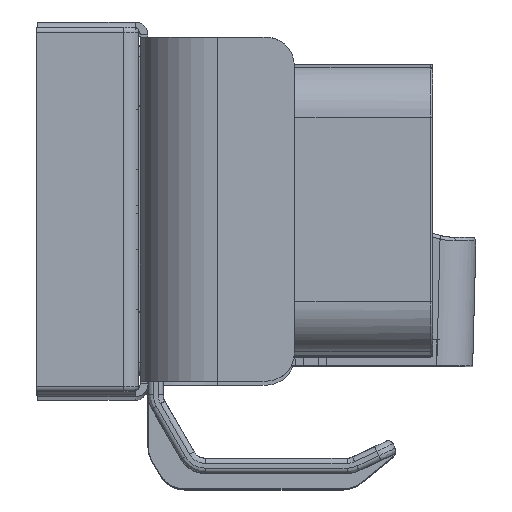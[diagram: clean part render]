
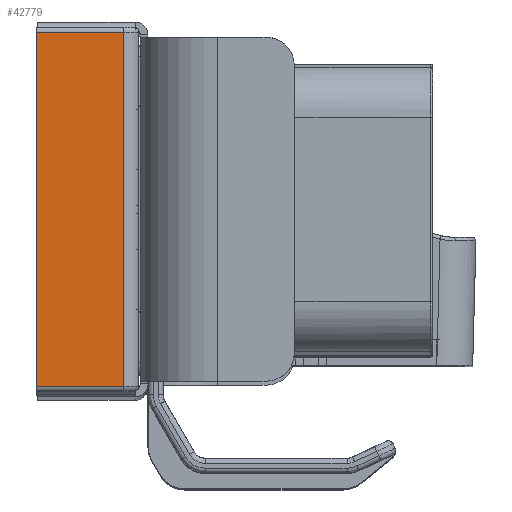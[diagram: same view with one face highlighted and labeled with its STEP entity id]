
A CAD part, top view. The second image highlights one B-rep face of the part: STEP entity #42779.
In plain terms, the highlighted planar face has unit normal (0, 0, 1).
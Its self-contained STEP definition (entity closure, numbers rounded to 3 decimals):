
#1903=DIRECTION('',(0.,-1.,0.));
#1904=VECTOR('',#1903,69.);
#1905=CARTESIAN_POINT('',(-20.3,34.5,213.5));
#1906=LINE('',#1905,#1904);
#5052=DIRECTION('',(1.,0.,0.));
#5053=VECTOR('',#5052,17.);
#5054=CARTESIAN_POINT('',(-20.3,34.5,213.5));
#5055=LINE('',#5054,#5053);
#5056=DIRECTION('',(0.,-1.,0.));
#5057=VECTOR('',#5056,69.);
#5058=CARTESIAN_POINT('',(-3.3,34.5,213.5));
#5059=LINE('',#5058,#5057);
#5060=DIRECTION('',(-1.,0.,0.));
#5061=VECTOR('',#5060,17.);
#5062=CARTESIAN_POINT('',(-3.3,-34.5,213.5));
#5063=LINE('',#5062,#5061);
#30029=CARTESIAN_POINT('',(-3.3,34.5,213.5));
#30030=VERTEX_POINT('',#30029);
#30033=CARTESIAN_POINT('',(-20.3,34.5,213.5));
#30035=VERTEX_POINT('',#30033);
#30038=CARTESIAN_POINT('',(-20.3,-34.5,213.5));
#30040=VERTEX_POINT('',#30038);
#30041=CARTESIAN_POINT('',(-3.3,-34.5,213.5));
#30042=VERTEX_POINT('',#30041);
#42766=CARTESIAN_POINT('',(-3.3,35.5,213.5));
#42767=DIRECTION('',(0.,0.,1.));
#42768=DIRECTION('',(-1.,0.,0.));
#42769=AXIS2_PLACEMENT_3D('',#42766,#42767,#42768);
#42770=PLANE('',#42769);
#42772=ORIENTED_EDGE('',*,*,#42771,.T.);
#42774=ORIENTED_EDGE('',*,*,#42773,.T.);
#42775=ORIENTED_EDGE('',*,*,#42751,.T.);
#42776=ORIENTED_EDGE('',*,*,#36648,.F.);
#42777=EDGE_LOOP('',(#42772,#42774,#42775,#42776));
#42778=FACE_OUTER_BOUND('',#42777,.F.);
#36648=EDGE_CURVE('',#30035,#30040,#1906,.T.);
#42751=EDGE_CURVE('',#30042,#30040,#5063,.T.);
#42771=EDGE_CURVE('',#30035,#30030,#5055,.T.);
#42773=EDGE_CURVE('',#30030,#30042,#5059,.T.);
#42779=ADVANCED_FACE('',(#42778),#42770,.T.);
